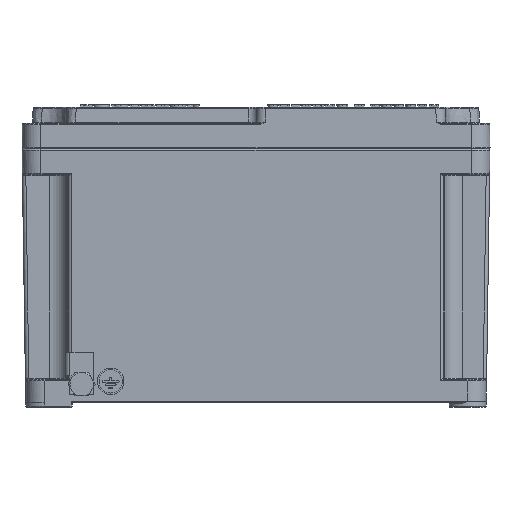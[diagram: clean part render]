
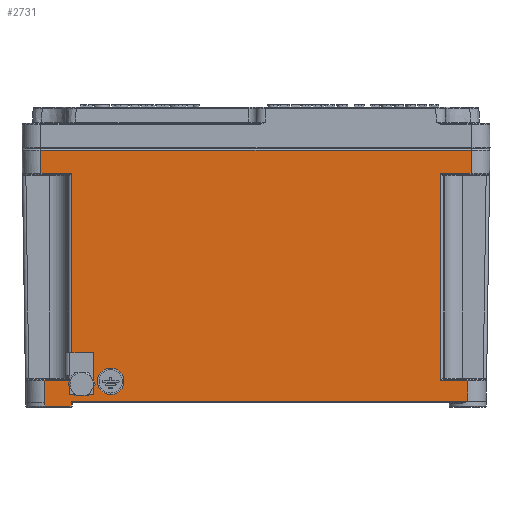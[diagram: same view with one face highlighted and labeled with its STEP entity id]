
A CAD part, left-side view. The second image highlights one B-rep face of the part: STEP entity #2731.
In plain terms, the highlighted planar face has unit normal (-1, 0, -0.015).
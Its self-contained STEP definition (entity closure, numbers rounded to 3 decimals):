
#248=CARTESIAN_POINT('',(-99.159,74.978,10.943));
#249=VERTEX_POINT('',#248);
#257=CARTESIAN_POINT('',(-99.116,74.978,7.993));
#258=DIRECTION('',(-1.,0.,-0.015));
#259=DIRECTION('',(0.015,0.0,-1.));
#260=AXIS2_PLACEMENT_3D('',#257,#258,#259);
#261=ELLIPSE('',#260,2.95,2.95);
#262=EDGE_CURVE('',#249,#249,#261,.T.);
#2008=CARTESIAN_POINT('',(-99.215,62.478,14.792));
#2009=VERTEX_POINT('',#2008);
#2010=CARTESIAN_POINT('',(-99.132,62.478,9.093));
#2011=DIRECTION('',(1.,0.,0.015));
#2012=DIRECTION('',(0.015,0.0,-1.));
#2013=AXIS2_PLACEMENT_3D('',#2010,#2011,#2012);
#2014=CIRCLE('',#2013,5.7);
#2015=EDGE_CURVE('',#2009,#2009,#2014,.T.);
#2582=CARTESIAN_POINT('',(-99.,-99.,0.0));
#2583=DIRECTION('',(-1.,0.,-0.015));
#2584=DIRECTION('',(0.0,-1.0,0.0));
#2585=AXIS2_PLACEMENT_3D('',#2582,#2583,#2584);
#2586=PLANE('',#2585);
#2587=CARTESIAN_POINT('',(-99.007,79.493,0.493));
#2588=VERTEX_POINT('',#2587);
#2589=CARTESIAN_POINT('',(-98.978,79.522,-1.507));
#2590=VERTEX_POINT('',#2589);
#2591=CARTESIAN_POINT('',(-99.007,79.493,0.493));
#2592=DIRECTION('',(0.015,0.015,-1.));
#2593=VECTOR('',#2592,2.);
#2594=LINE('',#2591,#2593);
#2595=EDGE_CURVE('',#2588,#2590,#2594,.T.);
#2596=ORIENTED_EDGE('',*,*,#2595,.F.);
#2597=CARTESIAN_POINT('',(-99.007,-88.237,0.493));
#2598=VERTEX_POINT('',#2597);
#2599=CARTESIAN_POINT('',(-99.007,79.493,0.493));
#2600=DIRECTION('',(0.0,-1.0,0.0));
#2601=VECTOR('',#2600,167.73);
#2602=LINE('',#2599,#2601);
#2603=EDGE_CURVE('',#2588,#2598,#2602,.T.);
#2604=ORIENTED_EDGE('',*,*,#2603,.T.);
#2605=CARTESIAN_POINT('',(-99.007,-91.008,0.493));
#2606=VERTEX_POINT('',#2605);
#2607=CARTESIAN_POINT('',(-99.007,-91.008,0.493));
#2608=DIRECTION('',(0.0,1.0,0.0));
#2609=VECTOR('',#2608,2.771);
#2610=LINE('',#2607,#2609);
#2611=EDGE_CURVE('',#2606,#2598,#2610,.T.);
#2612=ORIENTED_EDGE('',*,*,#2611,.F.);
#2613=CARTESIAN_POINT('',(-99.138,-91.139,9.493));
#2614=VERTEX_POINT('',#2613);
#2615=CARTESIAN_POINT('',(-99.138,-91.139,9.493));
#2616=DIRECTION('',(0.015,0.015,-1.));
#2617=VECTOR('',#2616,9.002);
#2618=LINE('',#2615,#2617);
#2619=EDGE_CURVE('',#2614,#2606,#2618,.T.);
#2620=ORIENTED_EDGE('',*,*,#2619,.F.);
#2621=CARTESIAN_POINT('',(-99.138,-79.258,9.493));
#2622=VERTEX_POINT('',#2621);
#2623=CARTESIAN_POINT('',(-99.138,-79.258,9.493));
#2624=DIRECTION('',(0.0,-1.0,0.0));
#2625=VECTOR('',#2624,11.881);
#2626=LINE('',#2623,#2625);
#2627=EDGE_CURVE('',#2622,#2614,#2626,.T.);
#2628=ORIENTED_EDGE('',*,*,#2627,.F.);
#2629=CARTESIAN_POINT('',(-100.432,-79.239,98.493));
#2630=VERTEX_POINT('',#2629);
#2631=CARTESIAN_POINT('',(-100.432,-79.239,98.493));
#2632=DIRECTION('',(0.015,0.,-1.));
#2633=VECTOR('',#2632,89.009);
#2634=LINE('',#2631,#2633);
#2635=EDGE_CURVE('',#2630,#2622,#2634,.T.);
#2636=ORIENTED_EDGE('',*,*,#2635,.F.);
#2637=CARTESIAN_POINT('',(-100.432,-92.433,98.493));
#2638=VERTEX_POINT('',#2637);
#2639=CARTESIAN_POINT('',(-100.432,-92.433,98.493));
#2640=DIRECTION('',(0.0,1.0,0.0));
#2641=VECTOR('',#2640,13.194);
#2642=LINE('',#2639,#2641);
#2643=EDGE_CURVE('',#2638,#2630,#2642,.T.);
#2644=ORIENTED_EDGE('',*,*,#2643,.F.);
#2645=CARTESIAN_POINT('',(-100.577,-92.578,108.493));
#2646=VERTEX_POINT('',#2645);
#2647=CARTESIAN_POINT('',(-100.577,-92.578,108.493));
#2648=DIRECTION('',(0.015,0.015,-1.));
#2649=VECTOR('',#2648,10.002);
#2650=LINE('',#2647,#2649);
#2651=EDGE_CURVE('',#2646,#2638,#2650,.T.);
#2652=ORIENTED_EDGE('',*,*,#2651,.F.);
#2653=CARTESIAN_POINT('',(-100.577,92.578,108.493));
#2654=VERTEX_POINT('',#2653);
#2655=CARTESIAN_POINT('',(-100.577,92.578,108.493));
#2656=DIRECTION('',(0.0,-1.0,0.0));
#2657=VECTOR('',#2656,185.157);
#2658=LINE('',#2655,#2657);
#2659=EDGE_CURVE('',#2654,#2646,#2658,.T.);
#2660=ORIENTED_EDGE('',*,*,#2659,.F.);
#2661=CARTESIAN_POINT('',(-100.432,92.433,98.493));
#2662=VERTEX_POINT('',#2661);
#2663=CARTESIAN_POINT('',(-100.432,92.433,98.493));
#2664=DIRECTION('',(-0.015,0.015,1.));
#2665=VECTOR('',#2664,10.002);
#2666=LINE('',#2663,#2665);
#2667=EDGE_CURVE('',#2662,#2654,#2666,.T.);
#2668=ORIENTED_EDGE('',*,*,#2667,.F.);
#2669=CARTESIAN_POINT('',(-100.432,79.239,98.493));
#2670=VERTEX_POINT('',#2669);
#2671=CARTESIAN_POINT('',(-100.432,79.239,98.493));
#2672=DIRECTION('',(0.0,1.0,0.0));
#2673=VECTOR('',#2672,13.194);
#2674=LINE('',#2671,#2673);
#2675=EDGE_CURVE('',#2670,#2662,#2674,.T.);
#2676=ORIENTED_EDGE('',*,*,#2675,.F.);
#2677=CARTESIAN_POINT('',(-99.138,79.258,9.493));
#2678=VERTEX_POINT('',#2677);
#2679=CARTESIAN_POINT('',(-99.138,79.258,9.493));
#2680=DIRECTION('',(-0.015,0.,1.));
#2681=VECTOR('',#2680,89.009);
#2682=LINE('',#2679,#2681);
#2683=EDGE_CURVE('',#2678,#2670,#2682,.T.);
#2684=ORIENTED_EDGE('',*,*,#2683,.F.);
#2685=CARTESIAN_POINT('',(-99.138,91.139,9.493));
#2686=VERTEX_POINT('',#2685);
#2687=CARTESIAN_POINT('',(-99.138,91.139,9.493));
#2688=DIRECTION('',(0.0,-1.0,0.0));
#2689=VECTOR('',#2688,11.881);
#2690=LINE('',#2687,#2689);
#2691=EDGE_CURVE('',#2686,#2678,#2690,.T.);
#2692=ORIENTED_EDGE('',*,*,#2691,.F.);
#2693=CARTESIAN_POINT('',(-99.0,91.001,0.0));
#2694=VERTEX_POINT('',#2693);
#2695=CARTESIAN_POINT('',(-99.,91.001,0.));
#2696=DIRECTION('',(-0.015,0.015,1.));
#2697=VECTOR('',#2696,9.495);
#2698=LINE('',#2695,#2697);
#2699=EDGE_CURVE('',#2694,#2686,#2698,.T.);
#2700=ORIENTED_EDGE('',*,*,#2699,.F.);
#2701=CARTESIAN_POINT('',(-99.,90.883,0.0));
#2702=VERTEX_POINT('',#2701);
#2703=CARTESIAN_POINT('',(-99.0,91.001,0.0));
#2704=DIRECTION('',(0.0,-1.0,0.0));
#2705=VECTOR('',#2704,0.118);
#2706=LINE('',#2703,#2705);
#2707=EDGE_CURVE('',#2694,#2702,#2706,.T.);
#2708=ORIENTED_EDGE('',*,*,#2707,.T.);
#2709=CARTESIAN_POINT('',(-98.978,90.883,-1.507));
#2710=VERTEX_POINT('',#2709);
#2711=CARTESIAN_POINT('',(-99.,90.883,0.));
#2712=DIRECTION('',(0.015,0.,-1.));
#2713=VECTOR('',#2712,1.507);
#2714=LINE('',#2711,#2713);
#2715=EDGE_CURVE('',#2702,#2710,#2714,.T.);
#2716=ORIENTED_EDGE('',*,*,#2715,.T.);
#2717=CARTESIAN_POINT('',(-98.978,79.522,-1.507));
#2718=DIRECTION('',(0.0,1.0,0.0));
#2719=VECTOR('',#2718,11.361);
#2720=LINE('',#2717,#2719);
#2721=EDGE_CURVE('',#2590,#2710,#2720,.T.);
#2722=ORIENTED_EDGE('',*,*,#2721,.F.);
#2723=EDGE_LOOP('',(#2596,#2604,#2612,#2620,#2628,#2636,#2644,#2652,#2660,#2668,#2676,#2684,#2692,#2700,#2708,#2716,#2722));
#2724=FACE_OUTER_BOUND('',#2723,.T.);
#2725=ORIENTED_EDGE('',*,*,#262,.F.);
#2726=EDGE_LOOP('',(#2725));
#2727=FACE_BOUND('',#2726,.T.);
#2728=ORIENTED_EDGE('',*,*,#2015,.T.);
#2729=EDGE_LOOP('',(#2728));
#2730=FACE_BOUND('',#2729,.T.);
#2731=ADVANCED_FACE('',(#2724,#2727,#2730),#2586,.T.);
